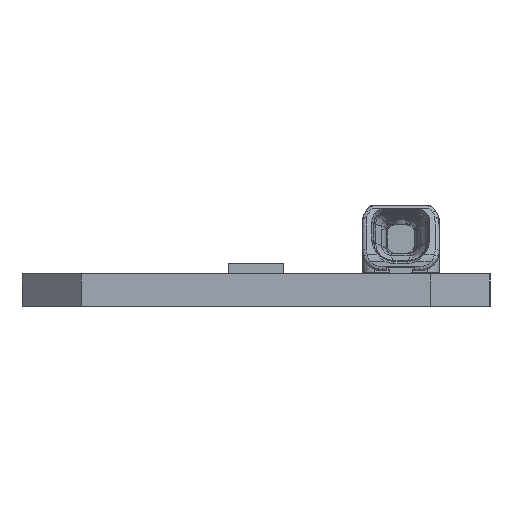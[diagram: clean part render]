
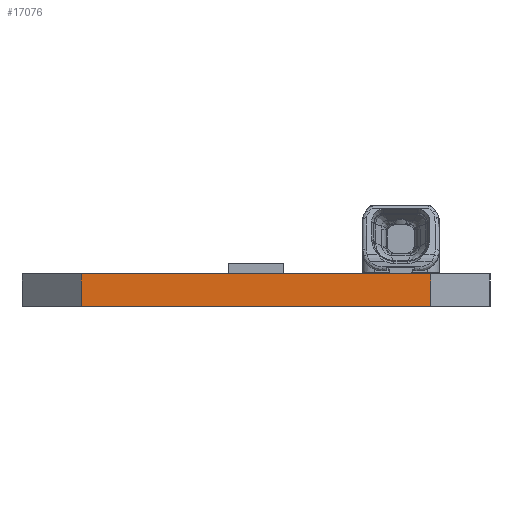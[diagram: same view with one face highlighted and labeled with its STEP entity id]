
A CAD part, left-side view. The second image highlights one B-rep face of the part: STEP entity #17076.
In plain terms, the highlighted planar face has unit normal (-1, 0, 0).
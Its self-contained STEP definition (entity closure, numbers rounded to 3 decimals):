
#2188=DIRECTION('',(0.,0.,1.));
#2189=VECTOR('',#2188,1.65);
#2190=CARTESIAN_POINT('',(-139.5,-8.8,0.));
#2191=LINE('',#2190,#2189);
#2195=DIRECTION('',(0.,1.,0.));
#2196=VECTOR('',#2195,17.6);
#2197=CARTESIAN_POINT('',(-139.5,-8.8,1.65));
#2198=LINE('',#2197,#2196);
#2286=DIRECTION('',(0.,1.,0.));
#2287=VECTOR('',#2286,17.6);
#2288=CARTESIAN_POINT('',(-139.5,-8.8,0.));
#2289=LINE('',#2288,#2287);
#2723=DIRECTION('',(0.,0.,1.));
#2724=VECTOR('',#2723,1.65);
#2725=CARTESIAN_POINT('',(-139.5,8.8,0.));
#2726=LINE('',#2725,#2724);
#14363=CARTESIAN_POINT('',(-139.5,8.8,1.65));
#14365=VERTEX_POINT('',#14363);
#14372=CARTESIAN_POINT('',(-139.5,8.8,0.));
#14374=VERTEX_POINT('',#14372);
#14420=CARTESIAN_POINT('',(-139.5,-8.8,1.65));
#14421=VERTEX_POINT('',#14420);
#14426=CARTESIAN_POINT('',(-139.5,-8.8,0.));
#14427=VERTEX_POINT('',#14426);
#17062=CARTESIAN_POINT('',(-139.5,8.8,1.65));
#17063=DIRECTION('',(-1.,0.,0.));
#17064=DIRECTION('',(0.,0.,1.));
#17065=AXIS2_PLACEMENT_3D('',#17062,#17063,#17064);
#17066=PLANE('',#17065);
#17068=ORIENTED_EDGE('',*,*,#17067,.F.);
#17070=ORIENTED_EDGE('',*,*,#17069,.T.);
#17072=ORIENTED_EDGE('',*,*,#17071,.T.);
#17073=ORIENTED_EDGE('',*,*,#16641,.F.);
#17074=EDGE_LOOP('',(#17068,#17070,#17072,#17073));
#17075=FACE_OUTER_BOUND('',#17074,.F.);
#16641=EDGE_CURVE('',#14421,#14365,#2198,.T.);
#17067=EDGE_CURVE('',#14427,#14421,#2191,.T.);
#17069=EDGE_CURVE('',#14427,#14374,#2289,.T.);
#17071=EDGE_CURVE('',#14374,#14365,#2726,.T.);
#17076=ADVANCED_FACE('',(#17075),#17066,.T.);
